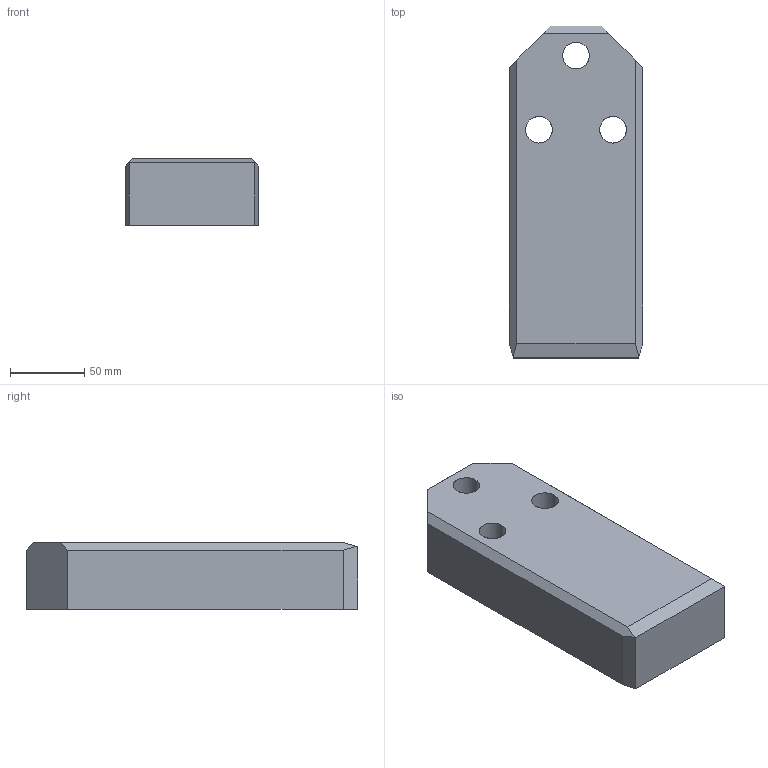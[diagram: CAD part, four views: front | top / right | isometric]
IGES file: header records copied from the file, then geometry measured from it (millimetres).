
Start section: START RECORD GO HERE.
Global section: file name: A927-90X224X45.igs; native system: DASSAULT SYSTEMES CATIA V5 R20 - www.3ds.com; preprocessor: CATIA Version 5 Release 20 ; author: Utente; organization: NB04-ASUS; date: 20200408.202511; units: millimetre
Bounding box: 90 x 224 x 45 mm (x, y, z)
Surface area: 71198.5 mm2 (no closed solid volume)
Topology: 0 solids, 0 shells, 35 faces, 168 edges, 168 vertices
Faces by surface type: revolution 18, extrusion 17
